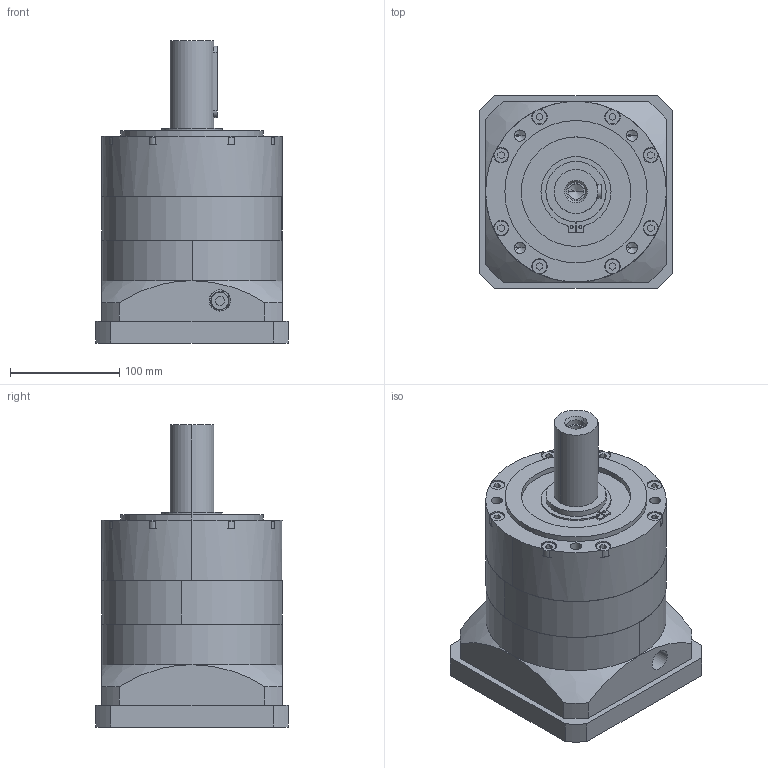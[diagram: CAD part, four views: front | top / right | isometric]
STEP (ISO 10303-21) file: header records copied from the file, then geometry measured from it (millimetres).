
FILE_DESCRIPTION (( 'STEP AP214' ), '1' );
FILE_NAME ('PRL160-L1.STEP', '2020-09-16T05:29:47', ( '微软用户' ), ( '微软中国' ), 'SwSTEP 2.0', 'SolidWorks 2014', '' );
FILE_SCHEMA (( 'AUTOMOTIVE_DESIGN' ));
Length unit declared in the file: millimetre
Products named in the file (16): GB／T70．1-2000内六角圆柱头螺钉M10×35; PLE160-蟀諉啣_2; PLE160-帣釱; GB／T276-94深沟球轴承6011-2RZ; 邧埴瑩 12x8x65; PLE160 奻屳唳; PLE160 κｳﾝﾈｦ_ﾒｻｼｶﾄﾚｳﾝﾈｦ; PRL160-L1
Assembly tree (8 placements, depth 2):
  GB／T70．1-2000内六角圆柱头螺钉M10×35
  PLE160-蟀諉啣_2
  PLE160-帣釱
  GB／T276-94深沟球轴承6011-2RZ
  邧埴瑩 12x8x65
Bounding box: 176 x 176 x 276 mm (x, y, z)
Volume: 3885062.6 mm3; surface area: 434427.2 mm2
Topology: 8 solids, 16 shells, 602 faces, 1591 edges, 1028 vertices
Faces by surface type: cylinder 220, plane 214, bspline 140, cone 28
Entity records: 31088 total; most frequent: CARTESIAN_POINT 10513, ORIENTED_EDGE 3030, DIRECTION 2688, EDGE_CURVE 1515, AXIS2_PLACEMENT_3D 1091, VERTEX_POINT 994, EDGE_LOOP 693, CIRCLE 633
